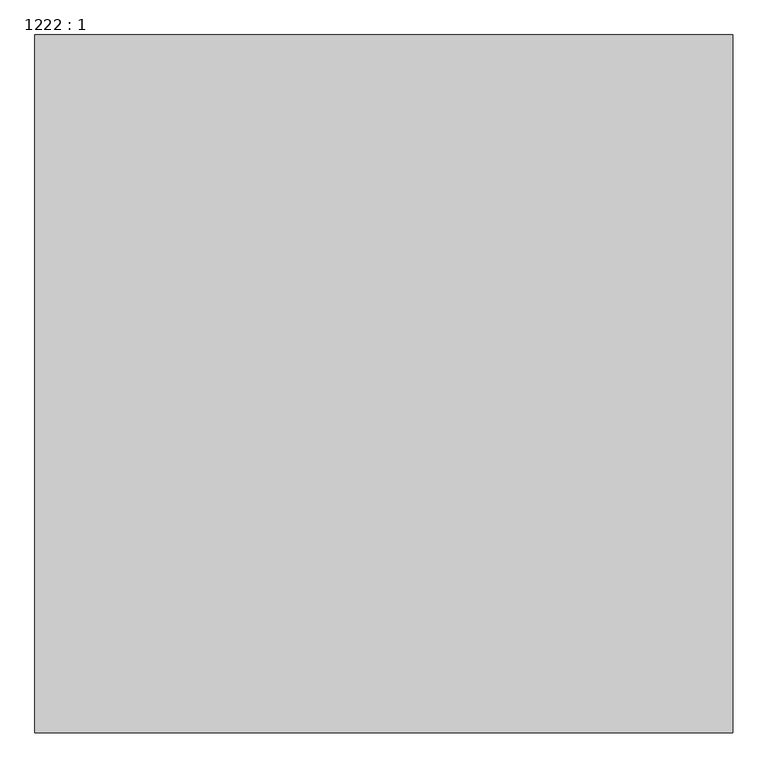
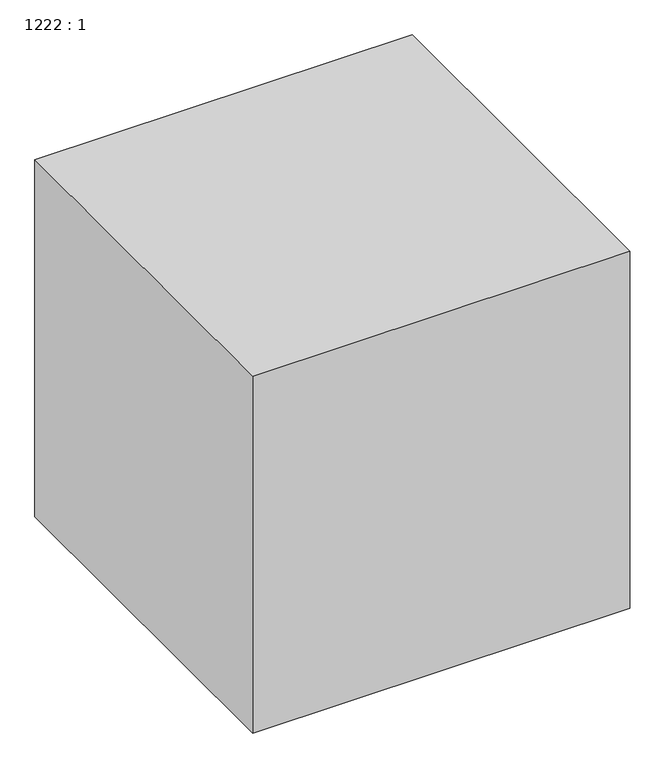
"""IFC4 building model written with IfcOpenShell, lengths in millimetres: proxy geometry, 1222 : 1."""

from ifc_helpers import new_model, si_unit, origin, origin_with_axes, place, context, project, spatial, polyline, outline, extrude, source, transform, mapped, element, save


def proxy_1222_1_645f6b2f(model_context):
    return source(origin(), model_context, "Body", "SweptSolid", [
        extrude(outline(polyline([(-14307.9756708, 11335.2294472), (-14307.9756708, 10335.2294472), (-15307.9756708, 10335.2294472), (-15307.9756708, 11335.2294472), (-14307.9756708, 11335.2294472)])), origin_with_axes(), (0.0, 0.0, 1.0), 1000.0),
    ])


if __name__ == "__main__":
    model = new_model("IFC4")
    model_context = context("Model", 3, world=origin())
    ifc_project = project(units=[si_unit("LENGTHUNIT", "METRE", prefix="MILLI")], contexts=[model_context])
    site = spatial("IfcSite", under=ifc_project)
    building = spatial("IfcBuilding", under=site)
    placement = place(None, origin())
    proxy_1222_1_shape = proxy_1222_1_645f6b2f(model_context)
    element("IfcBuildingElementProxy", 1, Name="1222 : 1", ObjectType="1222 : 1", at=placement, inside=building, context=model_context, shape_type="MappedRepresentation", body=[
        mapped(proxy_1222_1_shape, transform((0.0, 0.0, 0.0), x_axis=(1.0, 0.0, 0.0), y_axis=(0.0, 1.0, 0.0), z_axis=(0.0, 0.0, 1.0))),
    ])
    save(model, "model.ifc")
